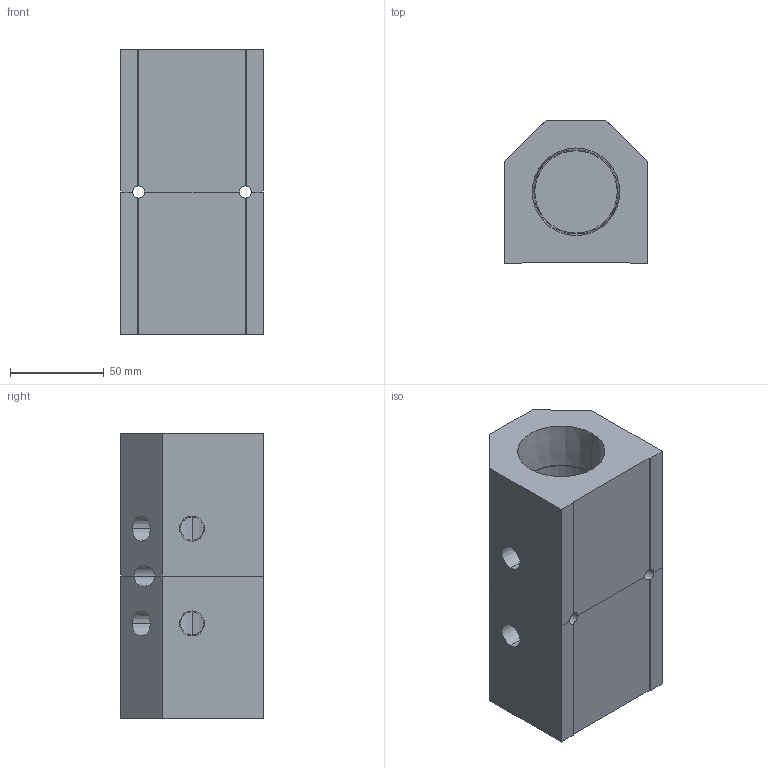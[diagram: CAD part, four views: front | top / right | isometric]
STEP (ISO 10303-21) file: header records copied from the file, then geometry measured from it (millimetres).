
FILE_DESCRIPTION (( 'STEP AP214' ), '1' );
FILE_NAME ('ALM2AB-N4N24-152RB.step', '2022-02-07T07:51:53', ( '' ), ( '' ), 'SwSTEP 2.0', 'SolidWorks 2020', '' );
FILE_SCHEMA (( 'AUTOMOTIVE_DESIGN' ));
Length unit declared in the file: millimetre
Products named in the file (1): ALM2AB-N4N24-152RB
Bounding box: 76.2 x 76.2 x 152 mm (x, y, z)
Volume: 554799.1 mm3; surface area: 86926 mm2
Topology: 2 solids, 2 shells, 338 faces, 891 edges, 592 vertices
Faces by surface type: plane 255, bspline 55, cylinder 16, cone 12
Entity records: 17331 total; most frequent: CARTESIAN_POINT 6227, ORIENTED_EDGE 1782, DIRECTION 1375, EDGE_CURVE 891, VECTOR 719, LINE 719, VERTEX_POINT 592, EDGE_LOOP 381
